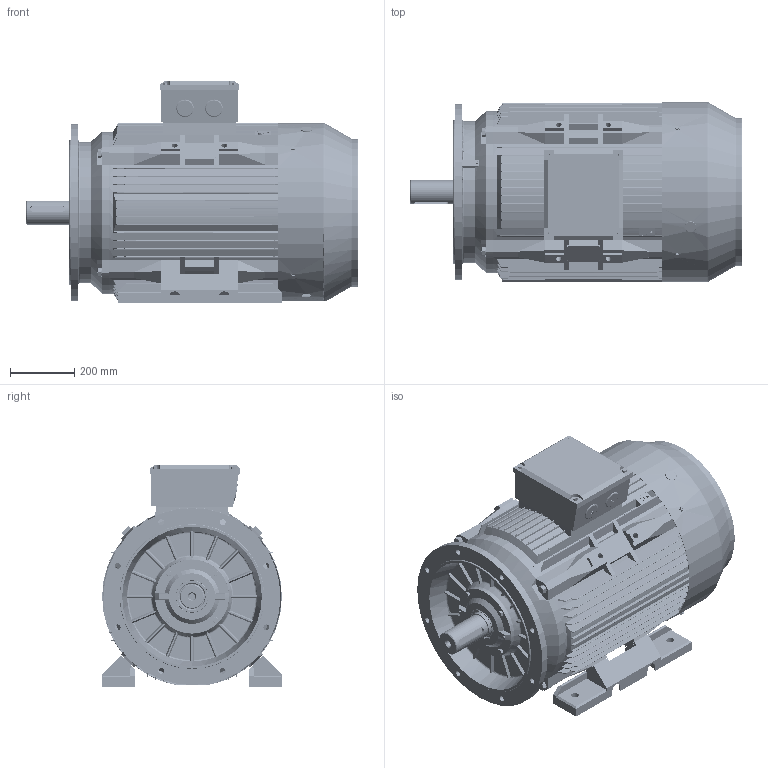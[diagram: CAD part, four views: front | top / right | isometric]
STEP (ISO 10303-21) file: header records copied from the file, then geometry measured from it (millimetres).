
FILE_DESCRIPTION (( 'STEP AP214' ), '1' );
FILE_NAME ('BCT3550.28E635.11.STEP', '2020-04-23T15:09:08', ( '' ), ( '' ), 'SwSTEP 2.0', 'SolidWorks 2019', '' );
FILE_SCHEMA (( 'AUTOMOTIVE_DESIGN' ));
Length unit declared in the file: millimetre
Products named in the file (1): BCT3550.28E635.11
Bounding box: 1032.2 x 559 x 688.14 mm (x, y, z)
Volume: 41449308.7 mm3; surface area: 7486637.2 mm2
Topology: 43 solids, 44 shells, 10015 faces, 29389 edges, 19394 vertices
Faces by surface type: plane 4984, cylinder 4263, cone 298, torus 231, sphere 124, bspline 115
Entity records: 367585 total; most frequent: CARTESIAN_POINT 93849, ORIENTED_EDGE 58370, DIRECTION 56150, EDGE_CURVE 29185, VERTEX_POINT 19332, AXIS2_PLACEMENT_3D 19137, VECTOR 17876, LINE 17876
